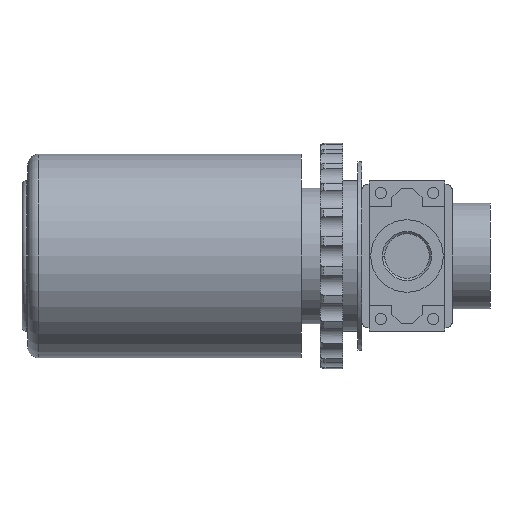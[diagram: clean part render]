
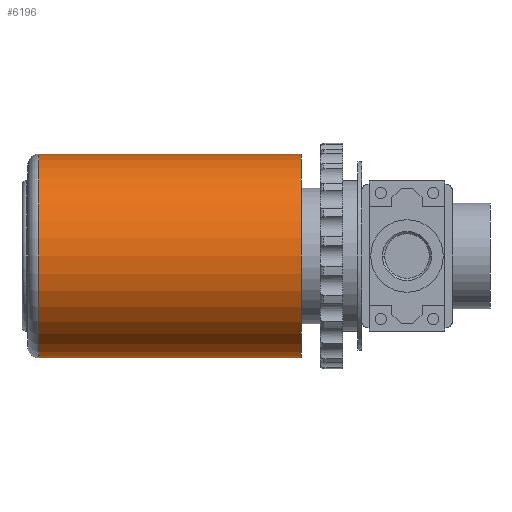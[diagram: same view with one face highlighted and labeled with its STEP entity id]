
A CAD part, left-side view. The second image highlights one B-rep face of the part: STEP entity #6196.
In plain terms, the highlighted cylindrical face has radius 27 mm (diameter 54 mm), a partial arc.
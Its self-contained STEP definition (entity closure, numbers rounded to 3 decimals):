
#1510=CARTESIAN_POINT('',(0.,97.5,0.));
#1511=DIRECTION('',(0.,1.,0.));
#1512=DIRECTION('',(0.,0.,-1.));
#1513=AXIS2_PLACEMENT_3D('',#1510,#1511,#1512);
#1520=DIRECTION('',(0.,1.,0.));
#1521=VECTOR('',#1520,69.5);
#1522=CARTESIAN_POINT('',(0.,28.,27.));
#1523=LINE('',#1522,#1521);
#1524=CARTESIAN_POINT('',(0.,28.,0.));
#1525=DIRECTION('',(0.,1.,0.));
#1526=DIRECTION('',(0.,0.,-1.));
#1527=AXIS2_PLACEMENT_3D('',#1524,#1525,#1526);
#1529=DIRECTION('',(0.,1.,0.));
#1530=VECTOR('',#1529,69.5);
#1531=CARTESIAN_POINT('',(0.,28.,-27.));
#1532=LINE('',#1531,#1530);
#3593=CARTESIAN_POINT('',(0.,28.,-27.));
#3594=CARTESIAN_POINT('',(0.,28.,27.));
#3595=VERTEX_POINT('',#3593);
#3596=VERTEX_POINT('',#3594);
#3621=CARTESIAN_POINT('',(0.,97.5,-27.));
#3622=CARTESIAN_POINT('',(0.,97.5,27.));
#3623=VERTEX_POINT('',#3621);
#3624=VERTEX_POINT('',#3622);
#6185=CARTESIAN_POINT('',(0.,106.5,0.));
#6186=DIRECTION('',(0.,-1.,0.));
#6187=DIRECTION('',(0.,0.,1.));
#6188=AXIS2_PLACEMENT_3D('',#6185,#6186,#6187);
#6189=CYLINDRICAL_SURFACE('',#6188,27.);
#6190=ORIENTED_EDGE('',*,*,#6179,.T.);
#6191=ORIENTED_EDGE('',*,*,#6069,.F.);
#6192=ORIENTED_EDGE('',*,*,#6050,.F.);
#6193=ORIENTED_EDGE('',*,*,#6066,.T.);
#6194=EDGE_LOOP('',(#6190,#6191,#6192,#6193));
#6195=FACE_OUTER_BOUND('',#6194,.F.);
#6196=ADVANCED_FACE('',(#6195),#6189,.T.);
#1514=CIRCLE('',#1513,27.);
#1528=CIRCLE('',#1527,27.);
#6050=EDGE_CURVE('',#3595,#3596,#1528,.T.);
#6066=EDGE_CURVE('',#3595,#3623,#1532,.T.);
#6069=EDGE_CURVE('',#3596,#3624,#1523,.T.);
#6179=EDGE_CURVE('',#3623,#3624,#1514,.T.);
